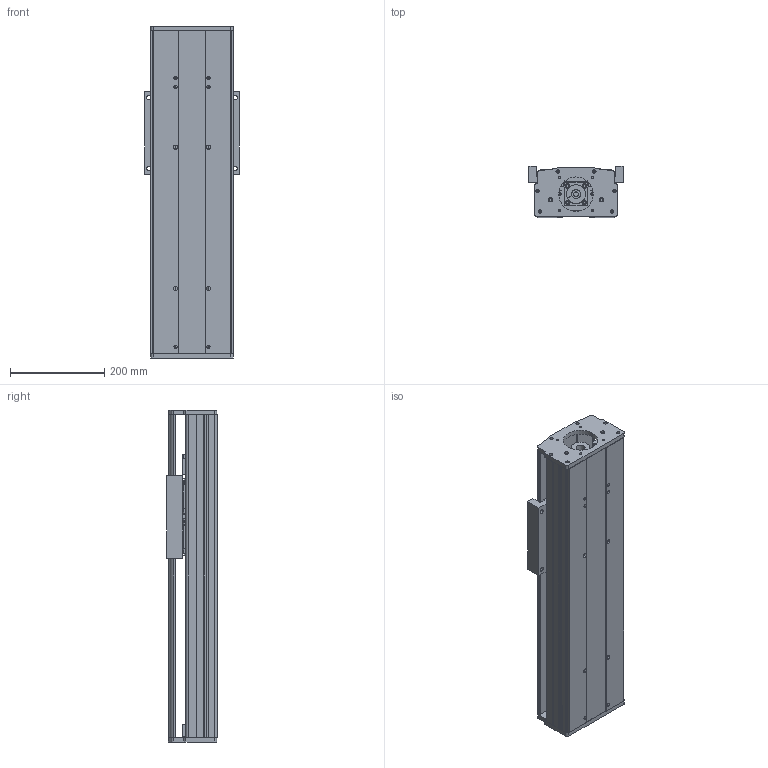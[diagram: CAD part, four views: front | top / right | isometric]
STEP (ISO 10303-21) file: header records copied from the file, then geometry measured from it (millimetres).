
FILE_DESCRIPTION (( 'STEP AP203' ), '1' );
FILE_NAME ('CF175-1-P350.STEP', '2016-02-23T07:00:21', ( 'Sky123.Org' ), ( 'Sky123.Org' ), 'SwSTEP 2.0', 'SolidWorks 2015', '' );
FILE_SCHEMA (( 'CONFIG_CONTROL_DESIGN' ));
Length unit declared in the file: millimetre
Products named in the file (23): 40-66; cf175-SFS2525蹟譫釱; 綴杶; HGR20絳寢-1140; SFU2510-BK20+BF20; ヶ杶; SFU2510-4; 175-1-86祭輛萇儂釱; 粣創裔; CF175-1-P350; 175-1耜啣; angular contact ball bearings gb_Rolling bearings S7004 GB 292-94; CF175-1175裔啣; BK20蚾饜极1; CF175-1175臏倰第; BF; CF-HGH20CA賑輸; 1; deep groove ball bearings gb_Rolling bearings 6004 GB 276-94; 175賑雄啣; 蝶菜; BF20蚾饜极1; BK20
Assembly tree (28 placements, depth 3):
  CF175-1-P350
    CF-HGH20CA賑輸  x4
    175賑雄啣
    BK20蚾饜极1
      BK20
      綴杶
      ヶ杶
      粣創裔
      angular contact ball bearings gb_Rolling bearings S7004 GB 292-94  x2
    BF20蚾饜极1
      BF
      deep groove ball bearings gb_Rolling bearings 6004 GB 276-94
    cf175-SFS2525蹟譫釱
    SFU2510-BK20+BF20
    175-1-86祭輛萇儂釱
    175-1耜啣
    CF175-1175裔啣
    CF175-1175臏倰第
    40-66
      1  x2
      蝶菜
    HGR20絳寢-1140  x2
    SFU2510-4
Bounding box: 200 x 107.5 x 705 mm (x, y, z)
Volume: 5997054.9 mm3; surface area: 1600783.1 mm2
Topology: 29 solids, 29 shells, 1648 faces, 5108 edges, 3406 vertices
Faces by surface type: cylinder 686, plane 676, torus 168, sphere 96, cone 20, bspline 2
Entity records: 51064 total; most frequent: CARTESIAN_POINT 16206, ORIENTED_EDGE 6956, DIRECTION 6631, EDGE_CURVE 3478, AXIS2_PLACEMENT_3D 2559, VERTEX_POINT 2317, VECTOR 1513, LINE 1513
